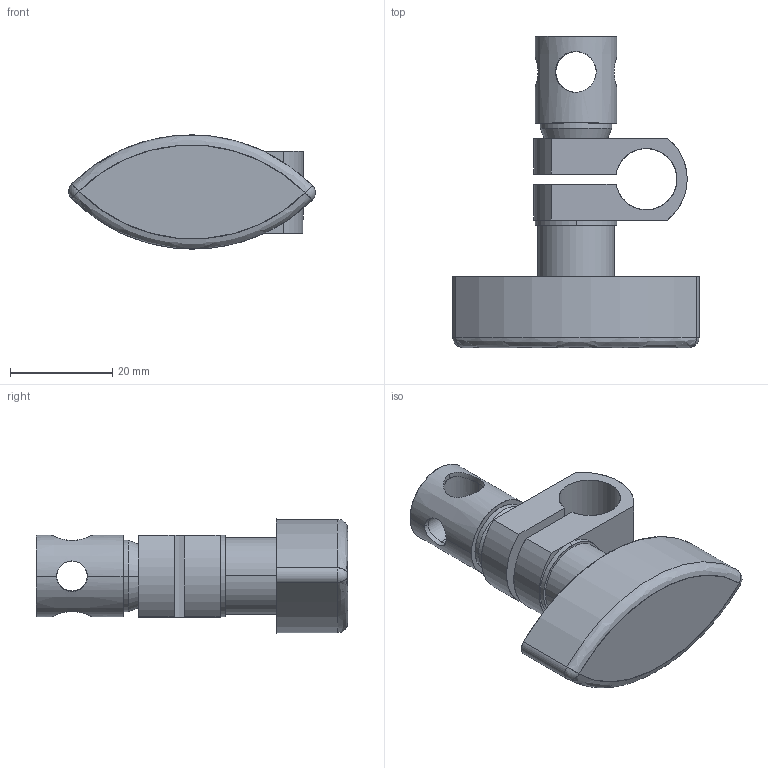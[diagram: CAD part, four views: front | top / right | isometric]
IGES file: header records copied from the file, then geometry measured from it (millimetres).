
Start section: SolidWorks IGES file using analytic representation for surfaces
Global section: file name: C:\Documents and Settings\CAD58\デスクトップ\CLIP\12-8CLIP\12-8CLIP.IGS; native system: SolidWorks 2006 by SolidWorks Corporation; preprocessor: SolidWorks 2006 by SolidWorks Corporation; author: CAD58; date: 090107.172424; units: millimetre
Bounding box: 48.29 x 61 x 22.38 mm (x, y, z)
Surface area: 10644.7 mm2 (no closed solid volume)
Topology: 0 solids, 0 shells, 61 faces, 1858 edges, 1856 vertices
Faces by surface type: revolution 44, bspline 17
